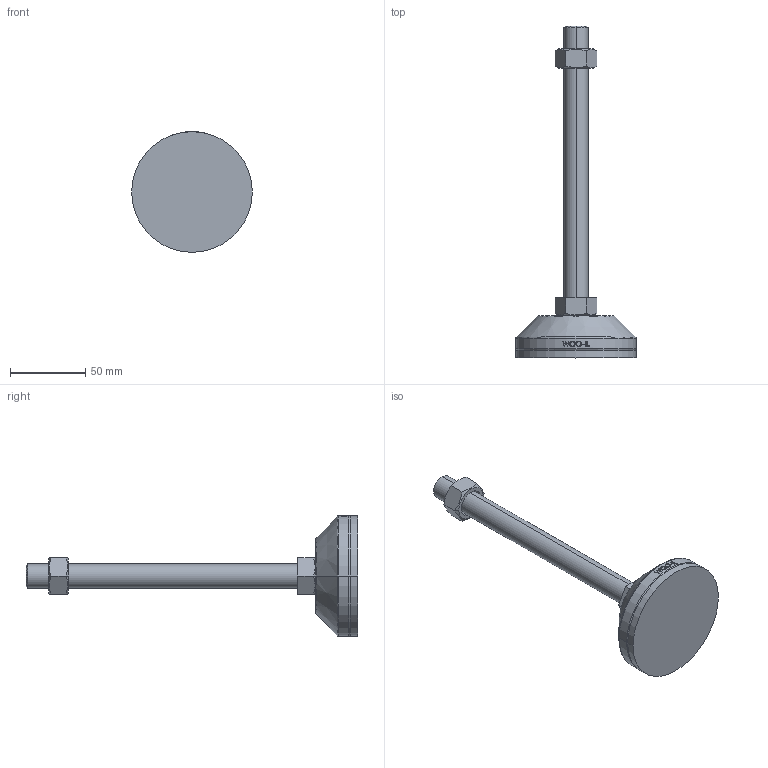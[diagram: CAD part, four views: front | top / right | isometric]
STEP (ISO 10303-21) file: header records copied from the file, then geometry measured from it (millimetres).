
FILE_DESCRIPTION (( 'STEP AP214' ), '1' );
FILE_NAME ('NHNR80-M16-180.step', '2021-01-25T06:21:46', ( '' ), ( '' ), 'SwSTEP 2.0', 'SolidWorks 2019', '' );
FILE_SCHEMA (( 'AUTOMOTIVE_DESIGN' ));
Length unit declared in the file: millimetre
Products named in the file (2): NHNR80-M16-180
Bounding box: 80 x 220 x 80 mm (x, y, z)
Volume: 161934.2 mm3; surface area: 38025.5 mm2
Topology: 4 solids, 4 shells, 105 faces, 239 edges, 152 vertices
Faces by surface type: plane 49, cylinder 18, bspline 16, cone 14, torus 8
Entity records: 4363 total; most frequent: CARTESIAN_POINT 2046, ORIENTED_EDGE 478, DIRECTION 429, EDGE_CURVE 239, AXIS2_PLACEMENT_3D 165, VERTEX_POINT 152, EDGE_LOOP 117, FACE_OUTER_BOUND 105
